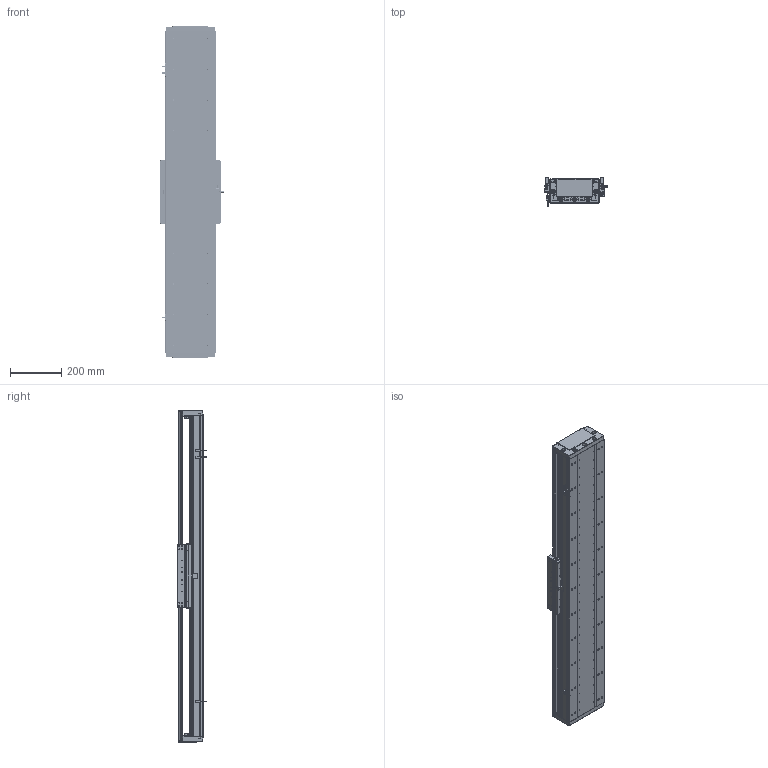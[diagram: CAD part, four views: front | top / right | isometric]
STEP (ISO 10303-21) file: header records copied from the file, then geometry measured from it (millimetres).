
FILE_DESCRIPTION (( 'STEP AP203' ), '1' );
FILE_NAME ('DA-C195-C3-T960-C010-0.2 眻盄萇儂.STEP', '2025-08-15T01:41:05', ( '' ), ( '' ), 'SwSTEP 2.0', 'SolidWorks 2019', '' );
FILE_SCHEMA (( 'CONFIG_CONTROL_DESIGN' ));
Length unit declared in the file: millimetre
Products named in the file (12): LMT黍杅芛; IU-CU195-L-00 菁釱(L1260); CU195-C3賑輸-俋楷; DA-C195-C3-T960-C010-0.2 眻盄萇儂; 葩璃 DA95-GT-T-00; DA195-DG-H-00  端盖（压铸镂空版）; MS200 棠掑喜S315-T240; IU-CU195-L 菁釱絳寢; 66156-0001-003-00 裔啣; PM-T45ㄗ侂狟ㄘ; DA95-HXJ-00 遣喳砎蝶; DA165-GYP-00 光电感应片(默认)
Assembly tree (20 placements, depth 3):
  DA-C195-C3-T960-C010-0.2 眻盄萇儂
    IU-CU195-L 菁釱絳寢
      IU-CU195-L-00 菁釱(L1260)
      葩璃 DA95-GT-T-00  x4
    LMT黍杅芛
    MS200 棠掑喜S315-T240
    PM-T45ㄗ侂狟ㄘ  x3
    DA165-GYP-00 光电感应片(默认)
    DA195-DG-H-00  端盖（压铸镂空版）  x2
    DA95-HXJ-00 遣喳砎蝶  x4
    66156-0001-003-00 裔啣
    CU195-C3賑輸-俋楷
Bounding box: 248 x 115.6 x 1300 mm (x, y, z)
Volume: 9373039 mm3; surface area: 2654027.9 mm2
Topology: 78 solids, 118 shells, 5247 faces, 13552 edges, 8259 vertices
Faces by surface type: cylinder 2312, plane 1601, bspline 710, cone 544, torus 44, sphere 36
Entity records: 146859 total; most frequent: CARTESIAN_POINT 45941, ORIENTED_EDGE 21190, DIRECTION 20198, EDGE_CURVE 10595, AXIS2_PLACEMENT_3D 7515, VERTEX_POINT 6689, LINE 5168, VECTOR 5168
